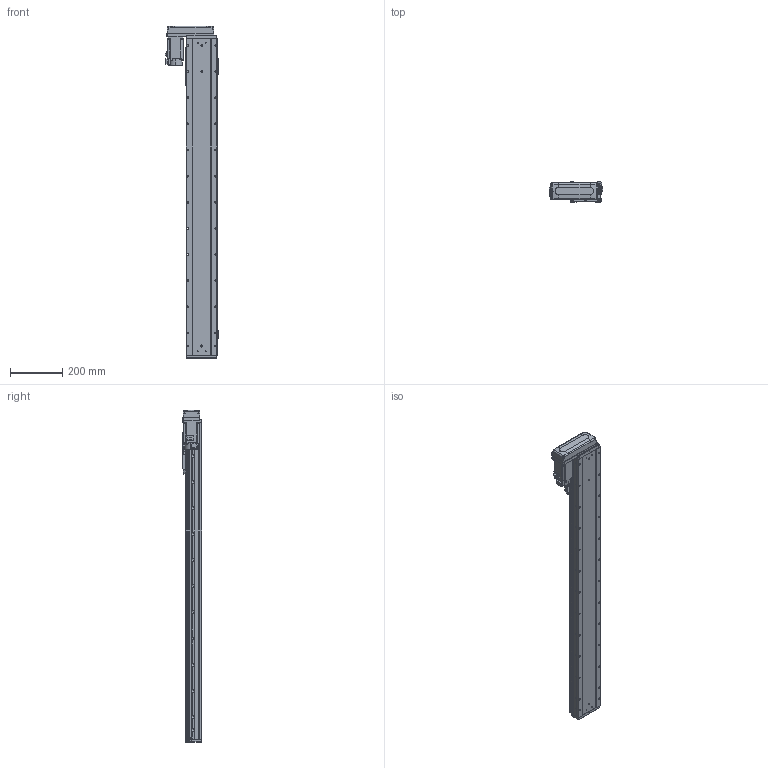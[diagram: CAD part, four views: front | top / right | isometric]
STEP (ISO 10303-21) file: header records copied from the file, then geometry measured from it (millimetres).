
FILE_DESCRIPTION (( 'STEP AP203' ), '1' );
FILE_NAME ('GTH12-1000-BR-M40-C4.step', '2025-07-16T03:42:50', ( '' ), ( '' ), 'SwSTEP 2.0', 'SolidWorks 2023', '' );
FILE_SCHEMA (( 'CONFIG_CONTROL_DESIGN' ));
Length unit declared in the file: millimetre
Products named in the file (18): GTH120-013; GTH120-027-1_GTH120-027-2; BTH-M3X5X6; GTH120-004; hg-kn43j_-s100_; GTH50-024; GBT96.1-2002 3×0.8; GBT 70.1-M5×16; GTH80-028; GTH120-006; GTH120-003; GTH50-023; GBT 70.3-M3×8; CTHA86-033_M40B; GBT 70.1-M3×6; GTH120-001_1000; GTH12-1000-BR-M40-C4; GTH80-022
Assembly tree (59 placements, depth 2):
  GTH12-1000-BR-M40-C4
    GTH120-001_1000
    GTH120-003
    GTH120-006
    GTH120-004
    GTH120-013
    GBT 70.1-M3×6  x14
    GBT 70.1-M5×16  x10
    GBT 70.3-M3×8  x4
    GTH80-022
    GTH80-028  x2
    GTH50-023  x3
    GTH50-024  x3
    GBT96.1-2002 3×0.8  x6
    BTH-M3X5X6  x8
    hg-kn43j_-s100_
    CTHA86-033_M40B
    GTH120-027-1_GTH120-027-2
Bounding box: 203.5 x 76 x 1270.5 mm (x, y, z)
Volume: 9134031.1 mm3; surface area: 785721.6 mm2
Topology: 61 solids, 61 shells, 2545 faces, 5966 edges, 3663 vertices
Faces by surface type: plane 1296, cylinder 753, cone 308, torus 174, sphere 8, bspline 6
Entity records: 48748 total; most frequent: CARTESIAN_POINT 8260, DIRECTION 8110, ORIENTED_EDGE 7542, EDGE_CURVE 3771, AXIS2_PLACEMENT_3D 2834, VECTOR 2442, LINE 2442, VERTEX_POINT 2384
